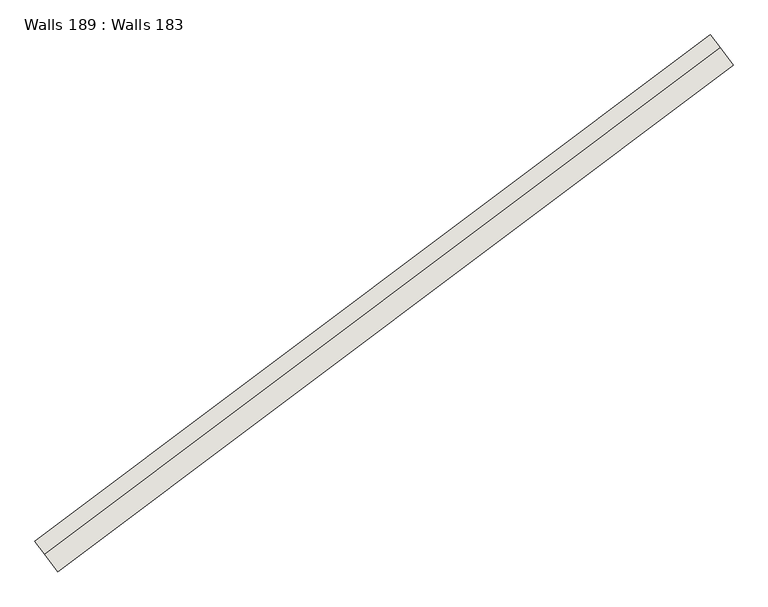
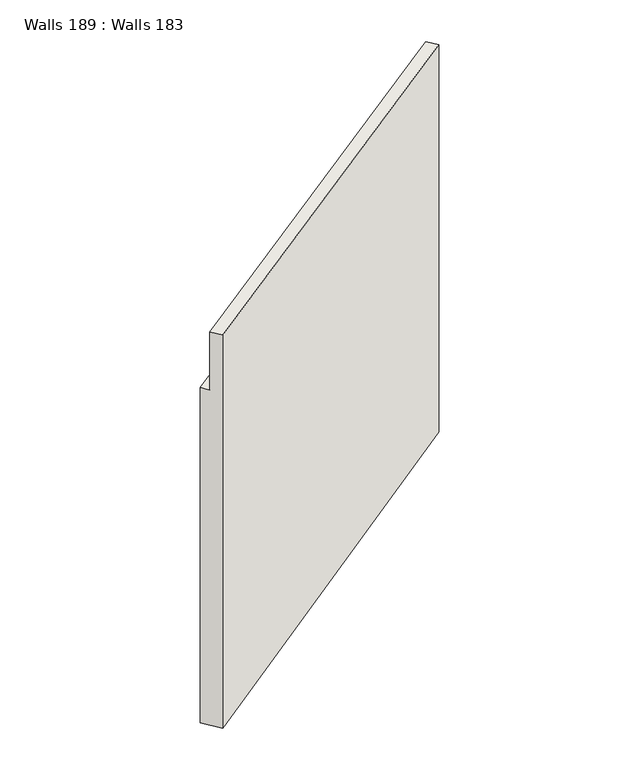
"""IFC4 building model written with IfcOpenShell, lengths in millimetres: wall geometry, Walls 189 : Walls 183."""

from ifc_helpers import new_model, si_unit, origin, place, context, project, spatial, faceted_brep, source, transform, mapped, element, save


def walls_189_walls_183_25519d05(model_context):
    return source(origin(), model_context, "Body", "Brep", [
        faceted_brep([(311731.707825, 229589.1658122, 643770.3786588), (311941.7991619, 229309.2343381, 643770.3786588), (311941.7991619, 229309.2343381, 650580.1041461), (311821.7469694, 229469.1951805, 650580.1041461), (311821.7469694, 229469.1951805, 649580.1041461), (311731.707825, 229589.1658122, 649580.1041461), (317970.7590689, 234271.6354095, 643879.9926706), (317970.7590689, 234271.6354095, 649590.1663549), (318060.7982133, 234151.6647777, 649590.1663549), (318060.7982133, 234151.6647777, 650590.1663549), (318180.8504058, 233991.7039354, 650590.1663549), (318180.8504058, 233991.7039354, 643879.9926706)], [[[0, 1, 2, 3, 4, 5]], [[6, 7, 8, 9, 10, 11]], [[6, 11, 1, 0]], [[11, 10, 2, 1]], [[10, 9, 3, 2]], [[9, 8, 4, 3]], [[8, 7, 5, 4]], [[7, 6, 0, 5]]]),
    ])


if __name__ == "__main__":
    model = new_model("IFC4")
    model_context = context("Model", 3, world=origin())
    ifc_project = project(units=[si_unit("LENGTHUNIT", "METRE", prefix="MILLI")], contexts=[model_context])
    site = spatial("IfcSite", under=ifc_project)
    building = spatial("IfcBuilding", under=site)
    placement = place(None, origin())
    walls_189_walls_183_shape = walls_189_walls_183_25519d05(model_context)
    element("IfcWall", 1, ObjectType="Walls 189 : Walls 183", at=placement, inside=building, context=model_context, shape_type="MappedRepresentation", body=[
        mapped(walls_189_walls_183_shape, transform((0.0, 0.0, 0.0), x_axis=(1.0, 0.0, 0.0), y_axis=(0.0, 1.0, 0.0), z_axis=(0.0, 0.0, 1.0))),
    ])
    save(model, "model.ifc")
